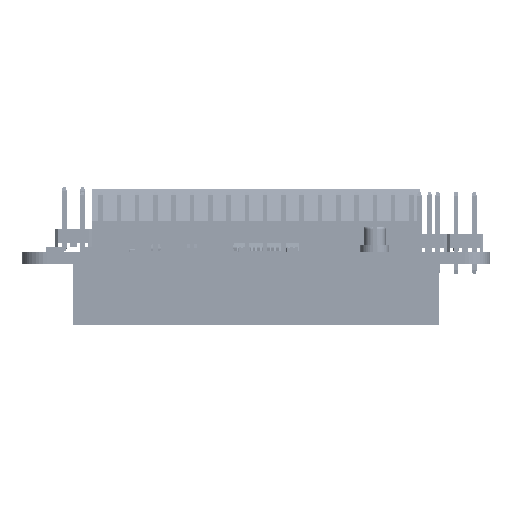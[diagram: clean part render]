
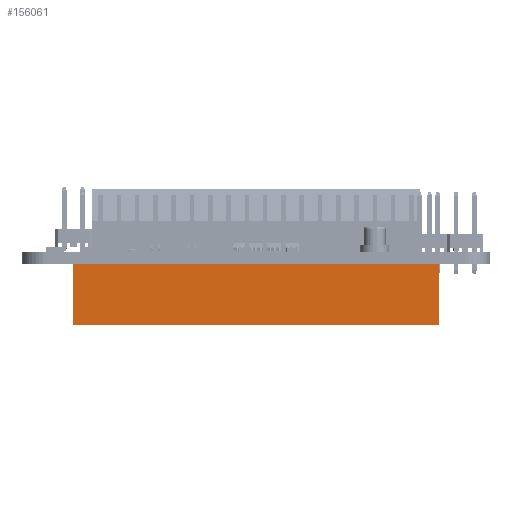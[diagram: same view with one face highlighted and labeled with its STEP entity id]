
A CAD part, front view. The second image highlights one B-rep face of the part: STEP entity #156061.
In plain terms, the highlighted planar face has unit normal (0, -1, 0) as drawn and (0, 0, 1) by its records, which use the part's own axes.
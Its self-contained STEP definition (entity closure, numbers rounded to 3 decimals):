
#141215=DIRECTION('',(-1.,0.,0.));
#141216=VECTOR('',#141215,50.86);
#141217=CARTESIAN_POINT('',(25.43,2.5,2.54));
#141218=LINE('',#141217,#141216);
#141222=DIRECTION('',(0.,1.,0.));
#141223=VECTOR('',#141222,8.5);
#141224=CARTESIAN_POINT('',(-25.43,2.5,2.54));
#141225=LINE('',#141224,#141223);
#141229=DIRECTION('',(1.,0.,0.));
#141230=VECTOR('',#141229,50.86);
#141231=CARTESIAN_POINT('',(-25.43,11.,2.54));
#141232=LINE('',#141231,#141230);
#141932=DIRECTION('',(0.,1.,0.));
#141933=VECTOR('',#141932,8.5);
#141934=CARTESIAN_POINT('',(25.43,2.5,2.54));
#141935=LINE('',#141934,#141933);
#152988=CARTESIAN_POINT('',(25.43,2.5,2.54));
#152990=VERTEX_POINT('',#152988);
#152992=CARTESIAN_POINT('',(25.43,11.,2.54));
#152993=VERTEX_POINT('',#152992);
#154525=CARTESIAN_POINT('',(-25.43,2.5,2.54));
#154527=VERTEX_POINT('',#154525);
#154530=CARTESIAN_POINT('',(-25.43,11.,2.54));
#154531=VERTEX_POINT('',#154530);
#156048=CARTESIAN_POINT('',(22.83,2.5,2.54));
#156049=DIRECTION('',(0.,0.,1.));
#156050=DIRECTION('',(1.,0.,0.));
#156051=AXIS2_PLACEMENT_3D('',#156048,#156049,#156050);
#156052=PLANE('',#156051);
#156053=ORIENTED_EDGE('',*,*,#155300,.T.);
#156055=ORIENTED_EDGE('',*,*,#156054,.T.);
#156056=ORIENTED_EDGE('',*,*,#155998,.T.);
#156058=ORIENTED_EDGE('',*,*,#156057,.F.);
#156059=EDGE_LOOP('',(#156053,#156055,#156056,#156058));
#156060=FACE_OUTER_BOUND('',#156059,.F.);
#156061=ADVANCED_FACE('',(#156060),#156052,.T.);
#155300=EDGE_CURVE('',#152990,#154527,#141218,.T.);
#155998=EDGE_CURVE('',#154531,#152993,#141232,.T.);
#156054=EDGE_CURVE('',#154527,#154531,#141225,.T.);
#156057=EDGE_CURVE('',#152990,#152993,#141935,.T.);
